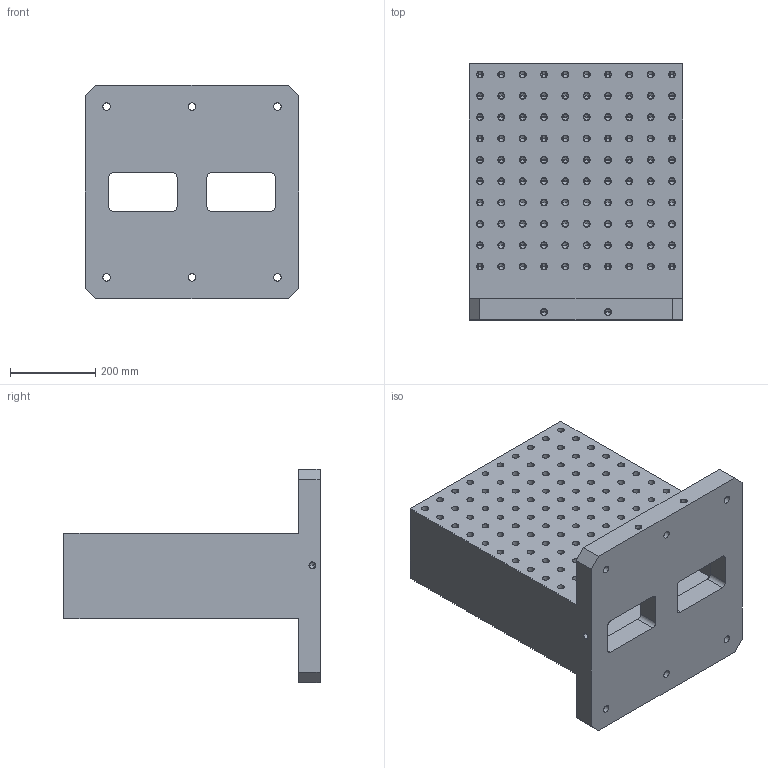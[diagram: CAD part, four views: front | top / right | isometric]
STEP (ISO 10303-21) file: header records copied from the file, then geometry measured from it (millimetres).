
FILE_DESCRIPTION((''),'2;1');
FILE_NAME('FG_WH_TOMB_RCG16NP004','2026-05-28T12:01:01',('Admin'),(''),'CREO PARAMETRIC BY PTC INC, 2025010','CREO PARAMETRIC BY PTC INC, 2025010','');
FILE_SCHEMA(('CONFIG_CONTROL_DESIGN'));
Length unit declared in the file: millimetre
Products named in the file (1): FG_WH_TOMB_RCG16NP004
Bounding box: 500 x 600 x 500 mm (x, y, z)
Volume: 41507240.5 mm3; surface area: 2560532.9 mm2
Topology: 1 solids, 205 shells, 2129 faces, 5144 edges, 3227 vertices
Faces by surface type: cylinder 1264, plane 459, cone 406
Entity records: 60307 total; most frequent: DIRECTION 11934, CARTESIAN_POINT 10095, ORIENTED_EDGE 8660, AXIS2_PLACEMENT_3D 5066, EDGE_CURVE 4738, VERTEX_POINT 3227, CIRCLE 2936, EDGE_LOOP 2767
